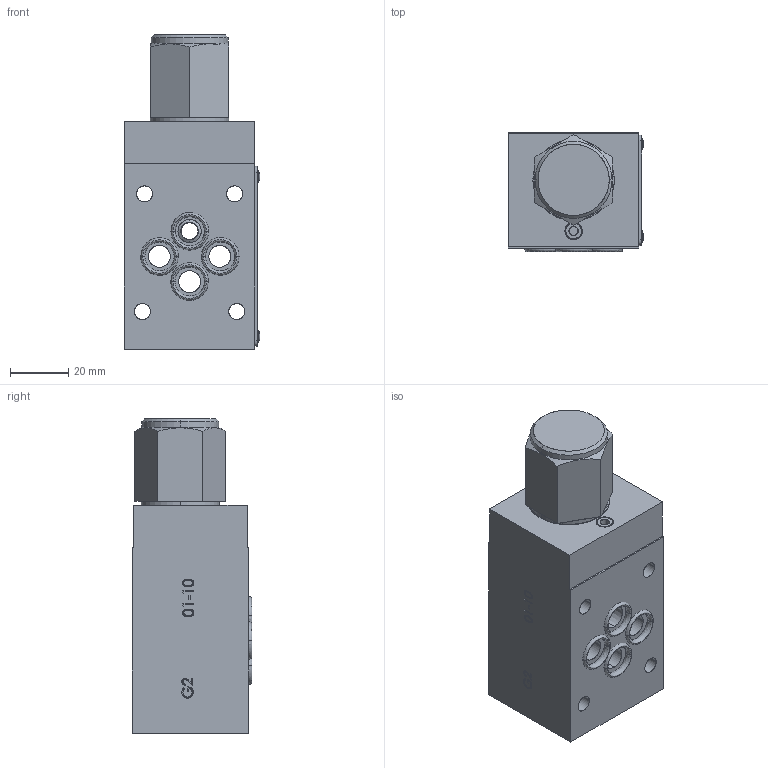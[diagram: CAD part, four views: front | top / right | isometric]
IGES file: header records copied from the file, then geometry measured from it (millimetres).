
Start section: SolidWorks IGES file using analytic representation for surfaces
Global section: file name: C:\Users\pc-te25\Desktop\369-2-A-03.IGS; native system: SolidWorks 2018; preprocessor: SolidWorks 2018; author: pc-te25; date: 191203.115520; units: millimetre
Bounding box: 46.66 x 41.1 x 108.3 mm (x, y, z)
Surface area: 29417.6 mm2 (no closed solid volume)
Topology: 0 solids, 0 shells, 784 faces, 13495 edges, 13495 vertices
Faces by surface type: bspline 683, revolution 101
